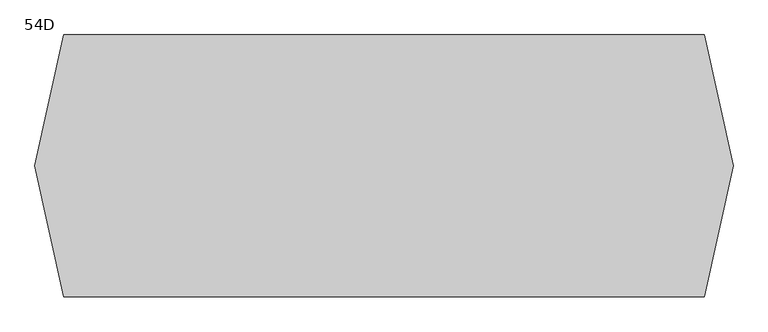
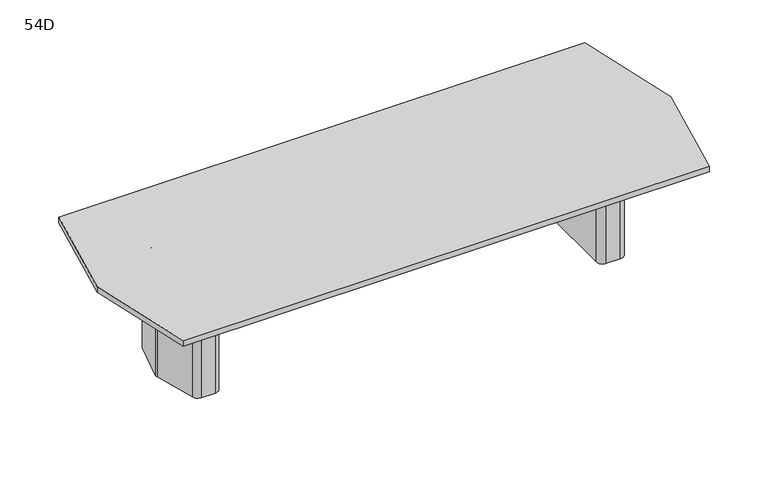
"""IFC4 building model written with IfcOpenShell, lengths in millimetres: furniture geometry, Coalesse_AM_Table_Conference_ETable2_Faceted_12ft_TwoBase : 54D."""

from ifc_helpers import new_model, si_unit, frame, origin, place, context, project, spatial, polyline, circle_curve, outline, extrude, source, transform, mapped, element, save
from ifc_brep_helpers import plane_surface, cylinder_surface, revolved_surface, advanced_brep


def furniture_54d_10f6a0d3(model_context):
    return source(origin(), model_context, "Body", "SolidModel", [
        advanced_brep(
        [(1370.224548, 274.2093613, 698.5), (1330.3579246, 304.8, 698.5), (1241.425, 304.8, 698.5), (1200.15, 263.525, 698.5), (1200.15, -263.525, 698.5), (1241.425, -304.8, 698.5), (1330.3579246, -304.8, 698.5), (1370.224548, -274.2093613, 698.5), (1440.8503901, -10.6333708, 698.5), (1440.8503901, 10.6333708, 698.5), (1238.25, -206.375, 698.5), (1238.25, 206.375, 698.5), (1263.65, 231.775, 698.5), (1322.6608422, 231.775, 698.5), (1347.195338, 212.9490792, 698.5), (1385.8875, 68.54974, 698.5), (1385.8875, -68.54974, 698.5), (1347.195338, -212.9490792, 698.5), (1322.6608422, -231.775, 698.5), (1263.65, -231.775, 698.5), (1370.224548, 274.2093613, 3.175), (1440.8503901, 10.6333708, 3.175), (1440.8503901, -10.6333708, 3.175), (1370.224548, -274.2093613, 3.175), (1330.3579246, -304.8, 3.175), (1241.425, -304.8, 3.175), (1200.15, -263.525, 3.175), (1200.15, 263.525, 3.175), (1241.425, 304.8, 3.175), (1330.3579246, 304.8, 3.175), (1359.4625859, 216.2361187, 3.175), (1322.6608422, 244.475, 3.175), (1263.65, 244.475, 3.175), (1225.55, 206.375, 3.175), (1225.55, -206.375, 3.175), (1263.65, -244.475, 3.175), (1322.6608422, -244.475, 3.175), (1359.4625859, -216.2361187, 3.175), (1398.5875, -70.2217466, 3.175), (1398.5875, 70.2217466, 3.175), (1263.65, -231.775, 3.175), (1238.25, -206.375, 3.175), (1322.6608422, -231.775, 3.175), (1347.195338, -212.9490792, 3.175), (1385.8875, -68.54974, 3.175), (1385.8875, 68.54974, 3.175), (1347.195338, 212.9490792, 3.175), (1322.6608422, 231.775, 3.175), (1263.65, 231.775, 3.175), (1238.25, 206.375, 3.175), (1359.4625859, 216.2361187, 0.0), (1398.5875, 70.2217466, 0.0), (1398.5875, -70.2217466, 0.0), (1359.4625859, -216.2361187, 0.0), (1322.6608422, -244.475, 0.0), (1263.65, -244.475, 0.0), (1225.55, -206.375, 0.0), (1225.55, 206.375, 0.0), (1263.65, 244.475, 0.0), (1322.6608422, 244.475, 0.0)],
        [
            (0, 1, circle_curve(frame((1330.3579246, 263.5270004, 698.5), z_axis=(0.0, 0.0, 1.0), x_axis=(-1.0, 0.0, 0.0)), 41.2729996)),
            (1, 2),
            (2, 3, circle_curve(frame((1241.425, 263.525, 698.5), z_axis=(0.0, 0.0, 1.0), x_axis=(-1.0, 0.0, 0.0)), 41.275)),
            (3, 4),
            (4, 5, circle_curve(frame((1241.425, -263.525, 698.5), z_axis=(0.0, 0.0, 1.0), x_axis=(-1.0, 0.0, 0.0)), 41.275)),
            (5, 6),
            (6, 7, circle_curve(frame((1330.3579246, -263.5270004, 698.5), z_axis=(0.0, 0.0, 1.0), x_axis=(-1.0, 0.0, 0.0)), 41.2729996)),
            (7, 8),
            (8, 9, circle_curve(frame((1401.1665979, 0.0, 698.5), z_axis=(0.0, 0.0, 1.0), x_axis=(-1.0, 0.0, 0.0)), 41.0837187)),
            (9, 0),
            (10, 11),
            (11, 12, circle_curve(frame((1263.65, 206.375, 698.5), z_axis=(0.0, 0.0, -1.0), x_axis=(-1.0, 0.0, 0.0)), 25.4)),
            (12, 13),
            (13, 14, circle_curve(frame((1322.6608422, 206.375, 698.5), z_axis=(0.0, 0.0, -1.0), x_axis=(-1.0, 0.0, 0.0)), 25.4)),
            (14, 15),
            (15, 16),
            (16, 17),
            (17, 18, circle_curve(frame((1322.6608422, -206.375, 698.5), z_axis=(0.0, 0.0, -1.0), x_axis=(-1.0, 0.0, 0.0)), 25.4)),
            (18, 19),
            (19, 10, circle_curve(frame((1263.65, -206.375, 698.5), z_axis=(0.0, 0.0, -1.0), x_axis=(-1.0, 0.0, 0.0)), 25.4)),
            (20, 21),
            (21, 22, circle_curve(frame((1401.1665979, 0.0, 3.175), z_axis=(0.0, 0.0, -1.0), x_axis=(-1.0, 0.0, 0.0)), 41.0837187)),
            (22, 23),
            (23, 24, circle_curve(frame((1330.3579246, -263.5270004, 3.175), z_axis=(0.0, 0.0, -1.0), x_axis=(-1.0, 0.0, 0.0)), 41.2729996)),
            (24, 25),
            (25, 26, circle_curve(frame((1241.425, -263.525, 3.175), z_axis=(0.0, 0.0, -1.0), x_axis=(-1.0, 0.0, 0.0)), 41.275)),
            (26, 27),
            (27, 28, circle_curve(frame((1241.425, 263.525, 3.175), z_axis=(0.0, 0.0, -1.0), x_axis=(-1.0, 0.0, 0.0)), 41.275)),
            (28, 29),
            (29, 20, circle_curve(frame((1330.3579246, 263.5270004, 3.175), z_axis=(0.0, 0.0, -1.0), x_axis=(-1.0, 0.0, 0.0)), 41.2729996)),
            (30, 31, circle_curve(frame((1322.6608422, 206.375, 3.175), z_axis=(0.0, 0.0, 1.0), x_axis=(-1.0, 0.0, 0.0)), 38.1)),
            (31, 32),
            (32, 33, circle_curve(frame((1263.65, 206.375, 3.175), z_axis=(0.0, 0.0, 1.0), x_axis=(-1.0, 0.0, 0.0)), 38.1)),
            (33, 34),
            (34, 35, circle_curve(frame((1263.65, -206.375, 3.175), z_axis=(0.0, 0.0, 1.0), x_axis=(-1.0, 0.0, 0.0)), 38.1)),
            (35, 36),
            (36, 37, circle_curve(frame((1322.6608422, -206.375, 3.175), z_axis=(0.0, 0.0, 1.0), x_axis=(-1.0, 0.0, 0.0)), 38.1)),
            (37, 38),
            (38, 39),
            (39, 30),
            (9, 21),
            (20, 0),
            (8, 22),
            (7, 23),
            (6, 24),
            (5, 25),
            (4, 26),
            (3, 27),
            (2, 28),
            (1, 29),
            (19, 40),
            (40, 41, circle_curve(frame((1263.65, -206.375, 3.175), z_axis=(0.0, 0.0, -1.0), x_axis=(-1.0, 0.0, 0.0)), 25.4)),
            (41, 10),
            (18, 42),
            (42, 40),
            (17, 43),
            (43, 42, circle_curve(frame((1322.6608422, -206.375, 3.175), z_axis=(0.0, 0.0, -1.0), x_axis=(-1.0, 0.0, 0.0)), 25.4)),
            (16, 44),
            (44, 43),
            (15, 45),
            (45, 44),
            (14, 46),
            (46, 45),
            (13, 47),
            (47, 46, circle_curve(frame((1322.6608422, 206.375, 3.175), z_axis=(0.0, 0.0, -1.0), x_axis=(-1.0, 0.0, 0.0)), 25.4)),
            (12, 48),
            (48, 47),
            (11, 49),
            (49, 48, circle_curve(frame((1263.65, 206.375, 3.175), z_axis=(0.0, 0.0, -1.0), x_axis=(-1.0, 0.0, 0.0)), 25.4)),
            (41, 49),
            (50, 51),
            (51, 52),
            (52, 53),
            (53, 54, circle_curve(frame((1322.6608422, -206.375, 0.0), z_axis=(0.0, 0.0, -1.0), x_axis=(-1.0, 0.0, 0.0)), 38.1)),
            (54, 55),
            (55, 56, circle_curve(frame((1263.65, -206.375, 0.0), z_axis=(0.0, 0.0, -1.0), x_axis=(-1.0, 0.0, 0.0)), 38.1)),
            (56, 57),
            (57, 58, circle_curve(frame((1263.65, 206.375, 0.0), z_axis=(0.0, 0.0, -1.0), x_axis=(-1.0, 0.0, 0.0)), 38.1)),
            (58, 59),
            (59, 50, circle_curve(frame((1322.6608422, 206.375, 0.0), z_axis=(0.0, 0.0, -1.0), x_axis=(-1.0, 0.0, 0.0)), 38.1)),
            (50, 30),
            (39, 51),
            (38, 52),
            (37, 53),
            (36, 54),
            (35, 55),
            (34, 56),
            (33, 57),
            (32, 58),
            (31, 59),
        ],
        [
            plane_surface(frame((1440.8374275, 10.6817473, 698.5), z_axis=(0.0, 0.0, 1.0000000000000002), x_axis=(0.25882201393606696, -0.9659250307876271, 0.0))),
            plane_surface(frame((1440.8374275, 10.6817473, 3.175), z_axis=(0.0, 0.0, -1.0000000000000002), x_axis=(-0.25882201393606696, 0.9659250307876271, 0.0))),
            plane_surface(frame((1370.224548, 274.2093613, 698.5), z_axis=(0.9659250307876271, 0.25882201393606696, 0.0), x_axis=(0.0, 0.0, -1.0))),
            cylinder_surface(frame((1401.1665979, 0.0, 3.175), z_axis=(0.0, 0.0, 1.0), x_axis=(-1.0, 0.0, 0.0)), 41.0837187),
            plane_surface(frame((1440.8503901, -10.6333708, 698.5), z_axis=(0.9659250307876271, -0.2588220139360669, 0.0), x_axis=(0.0, 0.0, -1.0))),
            cylinder_surface(frame((1330.3579246, -263.5270004, 3.175), z_axis=(0.0, 0.0, 1.0), x_axis=(-1.0, 0.0, 0.0)), 41.2729996),
            plane_surface(frame((1330.3579246, -304.8, 698.5), z_axis=(0.0, -1.0, 0.0), x_axis=(0.0, 0.0, -1.0))),
            cylinder_surface(frame((1241.425, -263.525, 3.175), z_axis=(0.0, 0.0, 1.0), x_axis=(-1.0, 0.0, 0.0)), 41.275),
            plane_surface(frame((1200.15, -263.525, 698.5), z_axis=(-1.0, 0.0, 0.0), x_axis=(0.0, 0.0, -1.0))),
            cylinder_surface(frame((1241.425, 263.525, 3.175), z_axis=(0.0, 0.0, 1.0), x_axis=(-1.0, 0.0, 0.0)), 41.275),
            plane_surface(frame((1241.425, 304.8, 698.5), z_axis=(0.0, 1.0, 0.0), x_axis=(0.0, 0.0, -1.0))),
            cylinder_surface(frame((1330.3579246, 263.5270004, 3.175), z_axis=(0.0, 0.0, 1.0), x_axis=(-1.0, 0.0, 0.0)), 41.2729996),
            revolved_surface(polyline([(1238.25, -206.375, 3.175), (1238.25, -206.375, 698.5)]), (1263.65, -206.375, 0.0), (0.0, 0.0, -1.0)),
            plane_surface(frame((1263.65, -231.775, 698.5), z_axis=(0.0, 1.0, 0.0), x_axis=(0.0, 0.0, -1.0))),
            revolved_surface(polyline([(1297.2608421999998, -206.375, 3.175), (1297.2608421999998, -206.375, 698.5)]), (1322.6608422, -206.375, 0.0), (0.0, 0.0, -1.0)),
            plane_surface(frame((1347.195338, -212.9490792, 698.5), z_axis=(-0.9659250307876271, 0.2588220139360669, 0.0), x_axis=(0.0, 0.0, -1.0))),
            plane_surface(frame((1385.8875, -68.54974, 698.5), z_axis=(-1.0, 0.0, 0.0), x_axis=(0.0, 0.0, -1.0))),
            plane_surface(frame((1385.8875, 68.54974, 698.5), z_axis=(-0.9659250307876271, -0.25882201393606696, 0.0), x_axis=(0.0, 0.0, -1.0))),
            revolved_surface(polyline([(1297.2608421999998, 206.375, 3.175), (1297.2608421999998, 206.375, 698.5)]), (1322.6608422, 206.375, 0.0), (0.0, 0.0, -1.0)),
            plane_surface(frame((1322.6608422, 231.775, 698.5), z_axis=(0.0, -1.0, 0.0), x_axis=(0.0, 0.0, -1.0))),
            revolved_surface(polyline([(1238.25, 206.375, 3.175), (1238.25, 206.375, 698.5)]), (1263.65, 206.375, 0.0), (0.0, 0.0, -1.0)),
            plane_surface(frame((1238.25, 206.375, 698.5), z_axis=(1.0, 0.0, 0.0), x_axis=(0.0, 0.0, -1.0))),
            plane_surface(frame((1398.1547479, 71.8367796, 3.175), z_axis=(0.0, 0.0, 1.0), x_axis=(0.25882201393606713, -0.965925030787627, 0.0))),
            plane_surface(frame((1398.1547479, 71.8367796, 0.0), z_axis=(0.0, 0.0, -1.0), x_axis=(-0.25882201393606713, 0.965925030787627, 0.0))),
            plane_surface(frame((1359.4625859, 216.2361187, 3.175), z_axis=(0.965925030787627, 0.25882201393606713, 0.0), x_axis=(0.0, 0.0, -1.0))),
            plane_surface(frame((1398.5875, 70.2217466, 3.175), z_axis=(1.0, 0.0, 0.0), x_axis=(0.0, 0.0, -1.0))),
            plane_surface(frame((1398.5875, -70.2217466, 3.175), z_axis=(0.9659250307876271, -0.2588220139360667, 0.0), x_axis=(0.0, 0.0, -1.0))),
            cylinder_surface(frame((1322.6608422, -206.375, 0.0), z_axis=(0.0, 0.0, 1.0), x_axis=(-1.0, 0.0, 0.0)), 38.1),
            plane_surface(frame((1322.6608422, -244.475, 3.175), z_axis=(0.0, -1.0, 0.0), x_axis=(0.0, 0.0, -1.0))),
            cylinder_surface(frame((1263.65, -206.375, 0.0), z_axis=(0.0, 0.0, 1.0), x_axis=(-1.0, 0.0, 0.0)), 38.1),
            plane_surface(frame((1225.55, -206.375, 3.175), z_axis=(-1.0, 0.0, 0.0), x_axis=(0.0, 0.0, -1.0))),
            cylinder_surface(frame((1263.65, 206.375, 0.0), z_axis=(0.0, 0.0, 1.0), x_axis=(-1.0, 0.0, 0.0)), 38.1),
            plane_surface(frame((1263.65, 244.475, 3.175), z_axis=(0.0, 1.0, 0.0), x_axis=(0.0, 0.0, -1.0))),
            cylinder_surface(frame((1322.6608422, 206.375, 0.0), z_axis=(0.0, 0.0, 1.0), x_axis=(-1.0, 0.0, 0.0)), 38.1),
        ],
        [
            (0, [[1, 2, 3, 4, 5, 6, 7, 8, 9, 10], [11, 12, 13, 14, 15, 16, 17, 18, 19, 20]]),
            (1, [[21, 22, 23, 24, 25, 26, 27, 28, 29, 30], [31, 32, 33, 34, 35, 36, 37, 38, 39, 40]]),
            (2, [[41, -21, 42, -10]]),
            (3, [[43, -22, -41, -9]]),
            (4, [[44, -23, -43, -8]]),
            (5, [[45, -24, -44, -7]]),
            (6, [[46, -25, -45, -6]]),
            (7, [[47, -26, -46, -5]]),
            (8, [[48, -27, -47, -4]]),
            (9, [[49, -28, -48, -3]]),
            (10, [[50, -29, -49, -2]]),
            (11, [[-42, -30, -50, -1]]),
            (12, [[51, 52, 53, -20]]),
            (13, [[54, 55, -51, -19]]),
            (14, [[56, 57, -54, -18]]),
            (15, [[58, 59, -56, -17]]),
            (16, [[60, 61, -58, -16]]),
            (17, [[62, 63, -60, -15]]),
            (18, [[64, 65, -62, -14]]),
            (19, [[66, 67, -64, -13]]),
            (20, [[68, 69, -66, -12]]),
            (21, [[-53, 70, -68, -11]]),
            (22, [[-55, -57, -59, -61, -63, -65, -67, -69, -70, -52]]),
            (23, [[71, 72, 73, 74, 75, 76, 77, 78, 79, 80]]),
            (24, [[81, -40, 82, -71]]),
            (25, [[-82, -39, 83, -72]]),
            (26, [[-83, -38, 84, -73]]),
            (27, [[-84, -37, 85, -74]]),
            (28, [[-85, -36, 86, -75]]),
            (29, [[-86, -35, 87, -76]]),
            (30, [[-87, -34, 88, -77]]),
            (31, [[-88, -33, 89, -78]]),
            (32, [[-89, -32, 90, -79]]),
            (33, [[-90, -31, -81, -80]]),
        ],
    ),
        advanced_brep(
        [(-1381.337048, 274.2093613, 698.5), (-1451.9628901, 10.6333708, 698.5), (-1451.9628901, -10.6333708, 698.5), (-1381.337048, -274.2093613, 698.5), (-1341.4704246, -304.8, 698.5), (-1252.5375, -304.8, 698.5), (-1211.2625, -263.525, 698.5), (-1211.2625, 263.525, 698.5), (-1252.5375, 304.8, 698.5), (-1341.4704246, 304.8, 698.5), (-1249.3625, -206.375, 698.5), (-1274.7625, -231.775, 698.5), (-1333.7733422, -231.775, 698.5), (-1358.307838, -212.9490792, 698.5), (-1397.0, -68.54974, 698.5), (-1397.0, 68.54974, 698.5), (-1358.307838, 212.9490792, 698.5), (-1333.7733422, 231.775, 698.5), (-1274.7625, 231.775, 698.5), (-1249.3625, 206.375, 698.5), (-1381.337048, 274.2093613, 3.175), (-1341.4704246, 304.8, 3.175), (-1252.5375, 304.8, 3.175), (-1211.2625, 263.525, 3.175), (-1211.2625, -263.525, 3.175), (-1252.5375, -304.8, 3.175), (-1341.4704246, -304.8, 3.175), (-1381.337048, -274.2093613, 3.175), (-1451.9628901, -10.6333708, 3.175), (-1451.9628901, 10.6333708, 3.175), (-1370.5750859, 216.2361187, 3.175), (-1409.7, 70.2217466, 3.175), (-1409.7, -70.2217466, 3.175), (-1370.5750859, -216.2361187, 3.175), (-1333.7733422, -244.475, 3.175), (-1274.7625, -244.475, 3.175), (-1236.6625, -206.375, 3.175), (-1236.6625, 206.375, 3.175), (-1274.7625, 244.475, 3.175), (-1333.7733422, 244.475, 3.175), (-1249.3625, -206.375, 3.175), (-1274.7625, -231.775, 3.175), (-1333.7733422, -231.775, 3.175), (-1358.307838, -212.9490792, 3.175), (-1397.0, -68.54974, 3.175), (-1397.0, 68.54974, 3.175), (-1358.307838, 212.9490792, 3.175), (-1333.7733422, 231.775, 3.175), (-1274.7625, 231.775, 3.175), (-1249.3625, 206.375, 3.175), (-1370.5750859, 216.2361187, 0.0), (-1333.7733422, 244.475, 0.0), (-1274.7625, 244.475, 0.0), (-1236.6625, 206.375, 0.0), (-1236.6625, -206.375, 0.0), (-1274.7625, -244.475, 0.0), (-1333.7733422, -244.475, 0.0), (-1370.5750859, -216.2361187, 0.0), (-1409.7, -70.2217466, 0.0), (-1409.7, 70.2217466, 0.0)],
        [
            (0, 1),
            (1, 2, circle_curve(frame((-1412.2790979, 0.0, 698.5), z_axis=(0.0, 0.0, 1.0), x_axis=(1.0, 0.0, 0.0)), 41.0837187)),
            (2, 3),
            (3, 4, circle_curve(frame((-1341.4704246, -263.5270004, 698.5), z_axis=(0.0, 0.0, 1.0), x_axis=(1.0, 0.0, 0.0)), 41.2729996)),
            (4, 5),
            (5, 6, circle_curve(frame((-1252.5375, -263.525, 698.5), z_axis=(0.0, 0.0, 1.0), x_axis=(1.0, 0.0, 0.0)), 41.275)),
            (6, 7),
            (7, 8, circle_curve(frame((-1252.5375, 263.525, 698.5), z_axis=(0.0, 0.0, 1.0), x_axis=(1.0, 0.0, 0.0)), 41.275)),
            (8, 9),
            (9, 0, circle_curve(frame((-1341.4704246, 263.5270004, 698.5), z_axis=(0.0, 0.0, 1.0), x_axis=(1.0, 0.0, 0.0)), 41.2729996)),
            (10, 11, circle_curve(frame((-1274.7625, -206.375, 698.5), z_axis=(0.0, 0.0, -1.0), x_axis=(1.0, 0.0, 0.0)), 25.4)),
            (11, 12),
            (12, 13, circle_curve(frame((-1333.7733422, -206.375, 698.5), z_axis=(0.0, 0.0, -1.0), x_axis=(1.0, 0.0, 0.0)), 25.4)),
            (13, 14),
            (14, 15),
            (15, 16),
            (16, 17, circle_curve(frame((-1333.7733422, 206.375, 698.5), z_axis=(0.0, 0.0, -1.0), x_axis=(1.0, 0.0, 0.0)), 25.4)),
            (17, 18),
            (18, 19, circle_curve(frame((-1274.7625, 206.375, 698.5), z_axis=(0.0, 0.0, -1.0), x_axis=(1.0, 0.0, 0.0)), 25.4)),
            (19, 10),
            (20, 21, circle_curve(frame((-1341.4704246, 263.5270004, 3.175), z_axis=(0.0, 0.0, -1.0), x_axis=(1.0, 0.0, 0.0)), 41.2729996)),
            (21, 22),
            (22, 23, circle_curve(frame((-1252.5375, 263.525, 3.175), z_axis=(0.0, 0.0, -1.0), x_axis=(1.0, 0.0, 0.0)), 41.275)),
            (23, 24),
            (24, 25, circle_curve(frame((-1252.5375, -263.525, 3.175), z_axis=(0.0, 0.0, -1.0), x_axis=(1.0, 0.0, 0.0)), 41.275)),
            (25, 26),
            (26, 27, circle_curve(frame((-1341.4704246, -263.5270004, 3.175), z_axis=(0.0, 0.0, -1.0), x_axis=(1.0, 0.0, 0.0)), 41.2729996)),
            (27, 28),
            (28, 29, circle_curve(frame((-1412.2790979, 0.0, 3.175), z_axis=(0.0, 0.0, -1.0), x_axis=(1.0, 0.0, 0.0)), 41.0837187)),
            (29, 20),
            (30, 31),
            (31, 32),
            (32, 33),
            (33, 34, circle_curve(frame((-1333.7733422, -206.375, 3.175), z_axis=(0.0, 0.0, 1.0), x_axis=(1.0, 0.0, 0.0)), 38.1)),
            (34, 35),
            (35, 36, circle_curve(frame((-1274.7625, -206.375, 3.175), z_axis=(0.0, 0.0, 1.0), x_axis=(1.0, 0.0, 0.0)), 38.1)),
            (36, 37),
            (37, 38, circle_curve(frame((-1274.7625, 206.375, 3.175), z_axis=(0.0, 0.0, 1.0), x_axis=(1.0, 0.0, 0.0)), 38.1)),
            (38, 39),
            (39, 30, circle_curve(frame((-1333.7733422, 206.375, 3.175), z_axis=(0.0, 0.0, 1.0), x_axis=(1.0, 0.0, 0.0)), 38.1)),
            (0, 20),
            (29, 1),
            (28, 2),
            (27, 3),
            (26, 4),
            (25, 5),
            (24, 6),
            (23, 7),
            (22, 8),
            (21, 9),
            (10, 40),
            (40, 41, circle_curve(frame((-1274.7625, -206.375, 3.175), z_axis=(0.0, 0.0, -1.0), x_axis=(1.0, 0.0, 0.0)), 25.4)),
            (41, 11),
            (41, 42),
            (42, 12),
            (42, 43, circle_curve(frame((-1333.7733422, -206.375, 3.175), z_axis=(0.0, 0.0, -1.0), x_axis=(1.0, 0.0, 0.0)), 25.4)),
            (43, 13),
            (43, 44),
            (44, 14),
            (44, 45),
            (45, 15),
            (45, 46),
            (46, 16),
            (46, 47, circle_curve(frame((-1333.7733422, 206.375, 3.175), z_axis=(0.0, 0.0, -1.0), x_axis=(1.0, 0.0, 0.0)), 25.4)),
            (47, 17),
            (47, 48),
            (48, 18),
            (48, 49, circle_curve(frame((-1274.7625, 206.375, 3.175), z_axis=(0.0, 0.0, -1.0), x_axis=(1.0, 0.0, 0.0)), 25.4)),
            (49, 19),
            (49, 40),
            (50, 51, circle_curve(frame((-1333.7733422, 206.375, 0.0), z_axis=(0.0, 0.0, -1.0), x_axis=(1.0, 0.0, 0.0)), 38.1)),
            (51, 52),
            (52, 53, circle_curve(frame((-1274.7625, 206.375, 0.0), z_axis=(0.0, 0.0, -1.0), x_axis=(1.0, 0.0, 0.0)), 38.1)),
            (53, 54),
            (54, 55, circle_curve(frame((-1274.7625, -206.375, 0.0), z_axis=(0.0, 0.0, -1.0), x_axis=(1.0, 0.0, 0.0)), 38.1)),
            (55, 56),
            (56, 57, circle_curve(frame((-1333.7733422, -206.375, 0.0), z_axis=(0.0, 0.0, -1.0), x_axis=(1.0, 0.0, 0.0)), 38.1)),
            (57, 58),
            (58, 59),
            (59, 50),
            (59, 31),
            (30, 50),
            (58, 32),
            (57, 33),
            (56, 34),
            (55, 35),
            (54, 36),
            (53, 37),
            (52, 38),
            (51, 39),
        ],
        [
            plane_surface(frame((-1451.9499275, 10.6817473, 698.5), z_axis=(0.0, 0.0, 1.0000000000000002), x_axis=(-0.25882201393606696, -0.9659250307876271, 0.0))),
            plane_surface(frame((-1451.9499275, 10.6817473, 3.175), z_axis=(0.0, 0.0, -1.0000000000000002), x_axis=(0.25882201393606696, 0.9659250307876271, 0.0))),
            plane_surface(frame((-1381.337048, 274.2093613, 698.5), z_axis=(-0.9659250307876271, 0.25882201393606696, 0.0), x_axis=(0.0, 0.0, -1.0))),
            cylinder_surface(frame((-1412.2790979, 0.0, 3.175), z_axis=(0.0, 0.0, 1.0), x_axis=(1.0, 0.0, 0.0)), 41.0837187),
            plane_surface(frame((-1451.9628901, -10.6333708, 698.5), z_axis=(-0.9659250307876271, -0.2588220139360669, 0.0), x_axis=(0.0, 0.0, -1.0))),
            cylinder_surface(frame((-1341.4704246, -263.5270004, 3.175), z_axis=(0.0, 0.0, 1.0), x_axis=(1.0, 0.0, 0.0)), 41.2729996),
            plane_surface(frame((-1341.4704246, -304.8, 698.5), z_axis=(0.0, -1.0, 0.0), x_axis=(0.0, 0.0, -1.0))),
            cylinder_surface(frame((-1252.5375, -263.525, 3.175), z_axis=(0.0, 0.0, 1.0), x_axis=(1.0, 0.0, 0.0)), 41.275),
            plane_surface(frame((-1211.2625, -263.525, 698.5), z_axis=(1.0, 0.0, 0.0), x_axis=(0.0, 0.0, -1.0))),
            cylinder_surface(frame((-1252.5375, 263.525, 3.175), z_axis=(0.0, 0.0, 1.0), x_axis=(1.0, 0.0, 0.0)), 41.275),
            plane_surface(frame((-1252.5375, 304.8, 698.5), z_axis=(0.0, 1.0, 0.0), x_axis=(0.0, 0.0, -1.0))),
            cylinder_surface(frame((-1341.4704246, 263.5270004, 3.175), z_axis=(0.0, 0.0, 1.0), x_axis=(1.0, 0.0, 0.0)), 41.2729996),
            revolved_surface(polyline([(-1249.3625, -206.375, 3.175), (-1249.3625, -206.375, 698.5)]), (-1274.7625, -206.375, 0.0), (0.0, 0.0, -1.0)),
            plane_surface(frame((-1274.7625, -231.775, 698.5), z_axis=(0.0, 1.0, 0.0), x_axis=(0.0, 0.0, -1.0))),
            revolved_surface(polyline([(-1308.3733421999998, -206.375, 3.175), (-1308.3733421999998, -206.375, 698.5)]), (-1333.7733422, -206.375, 0.0), (0.0, 0.0, -1.0)),
            plane_surface(frame((-1358.307838, -212.9490792, 698.5), z_axis=(0.9659250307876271, 0.2588220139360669, 0.0), x_axis=(0.0, 0.0, -1.0))),
            plane_surface(frame((-1397.0, -68.54974, 698.5), z_axis=(1.0, 0.0, 0.0), x_axis=(0.0, 0.0, -1.0))),
            plane_surface(frame((-1397.0, 68.54974, 698.5), z_axis=(0.9659250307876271, -0.25882201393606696, 0.0), x_axis=(0.0, 0.0, -1.0))),
            revolved_surface(polyline([(-1308.3733421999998, 206.375, 3.175), (-1308.3733421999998, 206.375, 698.5)]), (-1333.7733422, 206.375, 0.0), (0.0, 0.0, -1.0)),
            plane_surface(frame((-1333.7733422, 231.775, 698.5), z_axis=(0.0, -1.0, 0.0), x_axis=(0.0, 0.0, -1.0))),
            revolved_surface(polyline([(-1249.3625, 206.375, 3.175), (-1249.3625, 206.375, 698.5)]), (-1274.7625, 206.375, 0.0), (0.0, 0.0, -1.0)),
            plane_surface(frame((-1249.3625, 206.375, 698.5), z_axis=(-1.0, 0.0, 0.0), x_axis=(0.0, 0.0, -1.0))),
            plane_surface(frame((-1409.2672479, 71.8367796, 3.175), z_axis=(0.0, 0.0, 1.0), x_axis=(-0.25882201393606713, -0.965925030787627, 0.0))),
            plane_surface(frame((-1409.2672479, 71.8367796, 0.0), z_axis=(0.0, 0.0, -1.0), x_axis=(0.25882201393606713, 0.965925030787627, 0.0))),
            plane_surface(frame((-1370.5750859, 216.2361187, 3.175), z_axis=(-0.965925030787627, 0.25882201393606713, 0.0), x_axis=(0.0, 0.0, -1.0))),
            plane_surface(frame((-1409.7, 70.2217466, 3.175), z_axis=(-1.0, 0.0, 0.0), x_axis=(0.0, 0.0, -1.0))),
            plane_surface(frame((-1409.7, -70.2217466, 3.175), z_axis=(-0.9659250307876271, -0.2588220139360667, 0.0), x_axis=(0.0, 0.0, -1.0))),
            cylinder_surface(frame((-1333.7733422, -206.375, 0.0), z_axis=(0.0, 0.0, 1.0), x_axis=(1.0, 0.0, 0.0)), 38.1),
            plane_surface(frame((-1333.7733422, -244.475, 3.175), z_axis=(0.0, -1.0, 0.0), x_axis=(0.0, 0.0, -1.0))),
            cylinder_surface(frame((-1274.7625, -206.375, 0.0), z_axis=(0.0, 0.0, 1.0), x_axis=(1.0, 0.0, 0.0)), 38.1),
            plane_surface(frame((-1236.6625, -206.375, 3.175), z_axis=(1.0, 0.0, 0.0), x_axis=(0.0, 0.0, -1.0))),
            cylinder_surface(frame((-1274.7625, 206.375, 0.0), z_axis=(0.0, 0.0, 1.0), x_axis=(1.0, 0.0, 0.0)), 38.1),
            plane_surface(frame((-1274.7625, 244.475, 3.175), z_axis=(0.0, 1.0, 0.0), x_axis=(0.0, 0.0, -1.0))),
            cylinder_surface(frame((-1333.7733422, 206.375, 0.0), z_axis=(0.0, 0.0, 1.0), x_axis=(1.0, 0.0, 0.0)), 38.1),
        ],
        [
            (0, [[1, 2, 3, 4, 5, 6, 7, 8, 9, 10], [11, 12, 13, 14, 15, 16, 17, 18, 19, 20]]),
            (1, [[21, 22, 23, 24, 25, 26, 27, 28, 29, 30], [31, 32, 33, 34, 35, 36, 37, 38, 39, 40]]),
            (2, [[-1, 41, -30, 42]]),
            (3, [[-2, -42, -29, 43]]),
            (4, [[-3, -43, -28, 44]]),
            (5, [[-4, -44, -27, 45]]),
            (6, [[-5, -45, -26, 46]]),
            (7, [[-6, -46, -25, 47]]),
            (8, [[-7, -47, -24, 48]]),
            (9, [[-8, -48, -23, 49]]),
            (10, [[-9, -49, -22, 50]]),
            (11, [[-10, -50, -21, -41]]),
            (12, [[-11, 51, 52, 53]]),
            (13, [[-12, -53, 54, 55]]),
            (14, [[-13, -55, 56, 57]]),
            (15, [[-14, -57, 58, 59]]),
            (16, [[-15, -59, 60, 61]]),
            (17, [[-16, -61, 62, 63]]),
            (18, [[-17, -63, 64, 65]]),
            (19, [[-18, -65, 66, 67]]),
            (20, [[-19, -67, 68, 69]]),
            (21, [[-20, -69, 70, -51]]),
            (22, [[-52, -70, -68, -66, -64, -62, -60, -58, -56, -54]]),
            (23, [[71, 72, 73, 74, 75, 76, 77, 78, 79, 80]]),
            (24, [[-80, 81, -31, 82]]),
            (25, [[-79, 83, -32, -81]]),
            (26, [[-78, 84, -33, -83]]),
            (27, [[-77, 85, -34, -84]]),
            (28, [[-76, 86, -35, -85]]),
            (29, [[-75, 87, -36, -86]]),
            (30, [[-74, 88, -37, -87]]),
            (31, [[-73, 89, -38, -88]]),
            (32, [[-72, 90, -39, -89]]),
            (33, [[-71, -82, -40, -90]]),
        ],
    ),
        extrude(outline(polyline([(-1828.8, 0.0), (-1676.7609518, 685.8), (1676.7609518, 685.8), (1828.8, 0.0), (1676.7609518, -685.8), (-1676.7609518, -685.8), (-1828.8, 0.0)])), frame((0.0, 0.0, 698.5), z_axis=(0.0, 0.0, 1.0), x_axis=(1.0, 0.0, 0.0)), (0.0, 0.0, 1.0), 38.1),
        extrude(outline(polyline([(96.8375, 698.5), (103.1875, 698.5), (103.1875, 476.25), (-103.1875, 476.25), (-103.1875, 698.5), (-96.8375, 698.5), (-96.8375, 482.6), (96.8375, 482.6), (96.8375, 698.5)])), frame((-1211.2625, 0.0, 0.0), z_axis=(1.0, 0.0, 0.0), x_axis=(0.0, 1.0, 0.0)), (0.0, 0.0, 1.0), 2411.4125),
    ])


if __name__ == "__main__":
    model = new_model("IFC4")
    model_context = context("Model", 3, world=origin())
    ifc_project = project(units=[si_unit("LENGTHUNIT", "METRE", prefix="MILLI")], contexts=[model_context])
    site = spatial("IfcSite", under=ifc_project)
    building = spatial("IfcBuilding", under=site)
    placement = place(None, origin())
    furniture_54d_shape = furniture_54d_10f6a0d3(model_context)
    element("IfcFurniture", 1, ObjectType="Coalesse_AM_Table_Conference_ETable2_Faceted_12ft_TwoBase : 54D", at=placement, inside=building, context=model_context, shape_type="MappedRepresentation", body=[
        mapped(furniture_54d_shape, transform((0.0, 0.0, 0.0), x_axis=(1.0, 0.0, 0.0), y_axis=(0.0, 1.0, 0.0), z_axis=(0.0, 0.0, 1.0))),
    ])
    save(model, "model.ifc")
